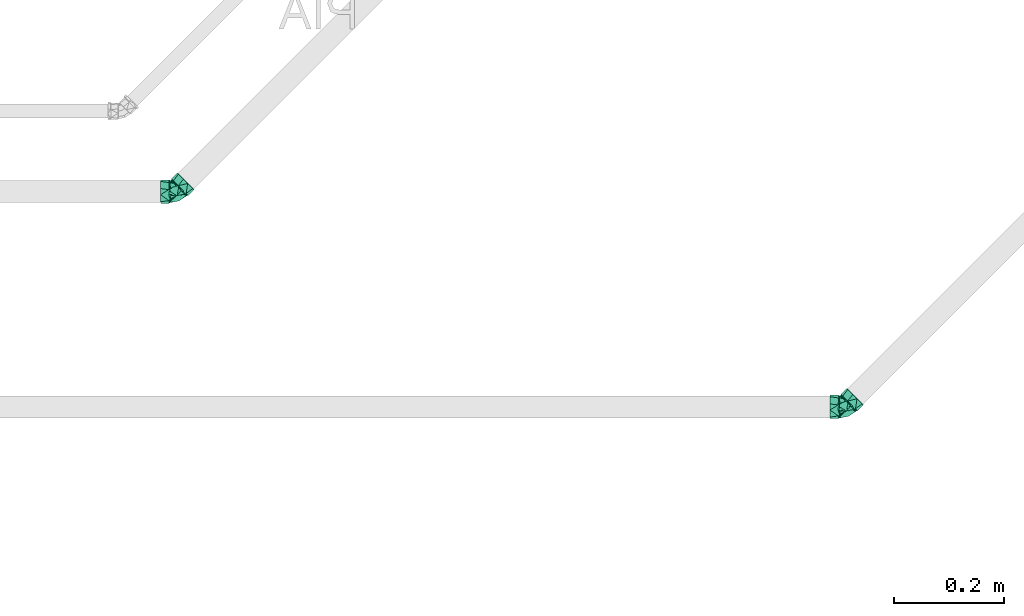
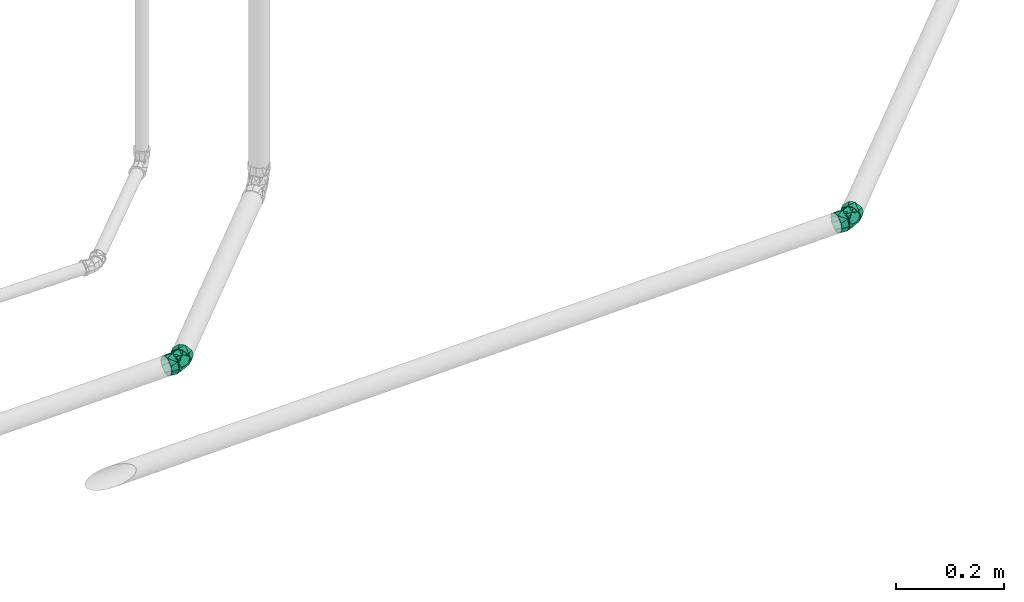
# One storey, part 344 of 589: 2 flow fittings.
"""IFC2X3 building model written with IfcOpenShell, lengths in millimetres."""

from ifc_helpers import new_model, entity, si_unit, converted_unit, derived_unit, direction, frame, origin, place, context, subcontext, project, spatial, faceted_brep, source, transform, mapped, material, type_object, type_shapes, element, save


model = new_model("IFC2X3")

# Units and contexts
model_context = context("Model", 3, precision=0.01, world=origin(), true_north=direction((6.123031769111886e-17, 1.0)))
body_context = subcontext(model_context, "Body", "Model", "MODEL_VIEW")
ifc_project = project(units=[si_unit("LENGTHUNIT", "METRE", prefix="MILLI"), si_unit("AREAUNIT", "SQUARE_METRE"), si_unit("VOLUMEUNIT", "CUBIC_METRE"), converted_unit("PLANEANGLEUNIT", "DEGREE", entity("IfcRatioMeasure", 0.017453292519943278), si_unit("PLANEANGLEUNIT", "RADIAN"), dimensions=[0, 0, 0, 0, 0, 0, 0]), si_unit("MASSUNIT", "GRAM", prefix="KILO"), derived_unit("MASSDENSITYUNIT", [(si_unit("MASSUNIT", "GRAM", prefix="KILO"), 1), (si_unit("LENGTHUNIT", "METRE"), -3)]), derived_unit("IONCONCENTRATIONUNIT", [(si_unit("MASSUNIT", "GRAM", prefix="KILO"), 1), (si_unit("LENGTHUNIT", "METRE"), -3)]), derived_unit("MOMENTOFINERTIAUNIT", [(si_unit("LENGTHUNIT", "METRE"), 4)]), si_unit("TIMEUNIT", "SECOND"), si_unit("FREQUENCYUNIT", "HERTZ"), si_unit("THERMODYNAMICTEMPERATUREUNIT", "DEGREE_CELSIUS"), derived_unit("THERMALTRANSMITTANCEUNIT", [(si_unit("MASSUNIT", "GRAM", prefix="KILO"), 1), (si_unit("THERMODYNAMICTEMPERATUREUNIT", "KELVIN"), -1), (si_unit("TIMEUNIT", "SECOND"), -3)]), derived_unit("THERMALCONDUCTANCEUNIT", [(si_unit("MASSUNIT", "GRAM", prefix="KILO"), 1), (si_unit("THERMODYNAMICTEMPERATUREUNIT", "KELVIN"), -1), (si_unit("TIMEUNIT", "SECOND"), -3), (si_unit("LENGTHUNIT", "METRE"), 1)]), derived_unit("VOLUMETRICFLOWRATEUNIT", [(si_unit("LENGTHUNIT", "METRE"), 3), (si_unit("TIMEUNIT", "SECOND"), -1)]), derived_unit("MASSFLOWRATEUNIT", [(si_unit("MASSUNIT", "GRAM", prefix="KILO"), 1), (si_unit("TIMEUNIT", "SECOND"), -1)]), derived_unit("ROTATIONALFREQUENCYUNIT", [(si_unit("TIMEUNIT", "SECOND"), -1)]), si_unit("ELECTRICCURRENTUNIT", "AMPERE"), si_unit("ELECTRICVOLTAGEUNIT", "VOLT"), si_unit("POWERUNIT", "WATT"), si_unit("FORCEUNIT", "NEWTON", prefix="KILO"), si_unit("ILLUMINANCEUNIT", "LUX"), si_unit("LUMINOUSFLUXUNIT", "LUMEN"), si_unit("LUMINOUSINTENSITYUNIT", "CANDELA"), derived_unit("USERDEFINED", [(si_unit("MASSUNIT", "GRAM", prefix="KILO"), -1), (si_unit("LENGTHUNIT", "METRE"), -2), (si_unit("TIMEUNIT", "SECOND"), 3), (si_unit("LUMINOUSFLUXUNIT", "LUMEN"), 1)]), derived_unit("USERDEFINED", [(si_unit("MASSUNIT", "GRAM", prefix="KILO"), 1), (si_unit("TIMEUNIT", "SECOND"), -3), (si_unit("LENGTHUNIT", "METRE"), 3), (si_unit("ELECTRICCURRENTUNIT", "AMPERE"), -2)]), derived_unit("SOUNDPOWERUNIT", [(si_unit("MASSUNIT", "GRAM", prefix="KILO"), 1), (si_unit("TIMEUNIT", "SECOND"), -3), (si_unit("LENGTHUNIT", "METRE"), 2)]), derived_unit("SOUNDPRESSUREUNIT", [(si_unit("MASSUNIT", "GRAM", prefix="KILO"), 1), (si_unit("LENGTHUNIT", "METRE"), -1), (si_unit("TIMEUNIT", "SECOND"), -2)]), derived_unit("LINEARVELOCITYUNIT", [(si_unit("LENGTHUNIT", "METRE"), 1), (si_unit("TIMEUNIT", "SECOND"), -1)]), si_unit("PRESSUREUNIT", "PASCAL"), derived_unit("USERDEFINED", [(si_unit("MASSUNIT", "GRAM", prefix="KILO"), 1), (si_unit("LENGTHUNIT", "METRE"), -2), (si_unit("TIMEUNIT", "SECOND"), -2)]), derived_unit("LINEARFORCEUNIT", [(si_unit("MASSUNIT", "GRAM", prefix="KILO"), 1), (si_unit("TIMEUNIT", "SECOND"), -2)]), derived_unit("PLANARFORCEUNIT", [(si_unit("MASSUNIT", "GRAM", prefix="KILO"), 1), (si_unit("LENGTHUNIT", "METRE"), -1), (si_unit("TIMEUNIT", "SECOND"), -2)]), derived_unit("SPECIFICHEATCAPACITYUNIT", [(si_unit("THERMODYNAMICTEMPERATUREUNIT", "KELVIN"), -1), (si_unit("LENGTHUNIT", "METRE"), 2), (si_unit("TIMEUNIT", "SECOND"), -2)]), derived_unit("HEATINGVALUEUNIT", [(si_unit("LENGTHUNIT", "METRE"), 2), (si_unit("TIMEUNIT", "SECOND"), -2)]), derived_unit("VAPORPERMEABILITYUNIT", [(si_unit("LENGTHUNIT", "METRE"), -1), (si_unit("TIMEUNIT", "SECOND"), 1)]), derived_unit("DYNAMICVISCOSITYUNIT", [(si_unit("MASSUNIT", "GRAM", prefix="KILO"), 1), (si_unit("TIMEUNIT", "SECOND"), -1), (si_unit("LENGTHUNIT", "METRE"), -1)]), derived_unit("THERMALEXPANSIONCOEFFICIENTUNIT", [(si_unit("THERMODYNAMICTEMPERATUREUNIT", "KELVIN"), -1)]), derived_unit("MODULUSOFELASTICITYUNIT", [(si_unit("MASSUNIT", "GRAM", prefix="KILO"), 1), (si_unit("LENGTHUNIT", "METRE"), -1), (si_unit("TIMEUNIT", "SECOND"), -2)]), derived_unit("ISOTHERMALMOISTURECAPACITYUNIT", [(si_unit("LENGTHUNIT", "METRE"), 3), (si_unit("MASSUNIT", "GRAM", prefix="KILO"), -1)]), derived_unit("MOISTUREDIFFUSIVITYUNIT", [(si_unit("TIMEUNIT", "SECOND"), -1), (si_unit("LENGTHUNIT", "METRE"), 2)])], contexts=[model_context])

# Site, building, storey
site_placement = place(None, origin())
site = spatial("IfcSite", under=ifc_project, at=site_placement, Name="Default", CompositionType="ELEMENT")
building_placement = place(site_placement, origin())
building = spatial("IfcBuilding", under=site, at=building_placement, CompositionType="ELEMENT")
storey_placement = place(building_placement, frame((0.0, 0.0, 100.0)))
storey = spatial("IfcBuildingStorey", under=building, at=storey_placement, Name="TÉRREO", CompositionType="ELEMENT", Elevation=100.0)

# Flow fittings
ifc_material = material(Name="PVC Série Normal")
pipe_fitting_type = type_object("IfcPipeFittingType", Name="PVC Esgoto_Joelho 45_90_Rodrigo MEP:a. Série Normal", PredefinedType="NOTDEFINED", material=ifc_material)
shared_shape = source(origin(), body_context, "Body", "Brep", [
    faceted_brep([(20.291797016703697, -7.993282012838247, 0.0), (18.397234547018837, -6.098470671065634, 10.0), (9.810603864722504, 2.489287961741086, 19.318516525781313), (2.4905765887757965, 9.810276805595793, 19.318516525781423), (-6.0960540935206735, 18.39803543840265, 10.0), (-7.990616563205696, 20.29284678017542, 0.0), (-6.0960540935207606, 18.398035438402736, -10.0), (2.49057658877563, 9.81027680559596, -19.31851652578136), (9.810603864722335, 2.4892879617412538, -19.318516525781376), (18.397234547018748, -6.098470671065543, -10.0), (-6.010587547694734, 22.272615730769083, 0.0), (-4.116025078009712, 20.377804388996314, 10.0), (4.470605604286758, 11.790045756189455, 19.318516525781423), (11.790632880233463, 4.46905691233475, 19.318516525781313), (20.3772635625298, -4.118701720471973, 10.0), (22.271826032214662, -6.013513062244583, 0.0), (20.37726356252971, -4.11870172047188, -10.0), (11.790632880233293, 4.469056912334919, -19.318516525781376), (4.4706056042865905, 11.790045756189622, -19.31851652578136), (-4.116025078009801, 20.3778043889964, -10.0)], [[[0, 1, 2, 3, 4, 5, 6, 7, 8, 9]], [[10, 11, 12, 13, 14, 15, 16, 17, 18, 19]], [[0, 15, 14, 1]], [[1, 14, 13, 2]], [[13, 12, 3, 2]], [[3, 12, 11, 4]], [[4, 11, 10, 5]], [[5, 10, 19, 6]], [[6, 19, 18, 7]], [[18, 17, 8, 7]], [[8, 17, 16, 9]], [[9, 16, 15, 0]]]),
    faceted_brep([(-11.497676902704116, -17.320508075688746, -10.0), (-11.497676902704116, -20.0, 0.0), (-11.497676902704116, -17.320508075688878, 10.0), (-11.497676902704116, -5.176380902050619, 19.318516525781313), (-11.497676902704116, 5.1763809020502, 19.318516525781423), (-11.497676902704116, 17.320508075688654, 10.0), (-11.497676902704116, 20.0, 0.0), (-11.497676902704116, 17.320508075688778, -10.0), (-11.497676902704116, 5.17638090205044, -19.31851652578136), (-11.497676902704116, -5.176380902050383, -19.318516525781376), (-8.697676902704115, 5.17638090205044, -19.31851652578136), (-8.697676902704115, 17.320508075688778, -10.0), (-8.697676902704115, 20.0, 0.0), (-8.697676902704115, 17.320508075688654, 10.0), (-8.697676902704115, 5.1763809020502, 19.318516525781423), (-8.697676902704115, -5.176380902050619, 19.318516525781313), (-8.697676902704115, -17.320508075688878, 10.0), (-8.697676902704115, -20.0, 0.0), (-8.697676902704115, -17.320508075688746, -10.0), (-8.697676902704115, -5.176380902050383, -19.318516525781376)], [[[0, 1, 2, 3, 4, 5, 6, 7, 8, 9]], [[10, 11, 12, 13, 14, 15, 16, 17, 18, 19]], [[1, 17, 16, 2]], [[2, 16, 15, 3]], [[15, 14, 4, 3]], [[4, 14, 13, 5]], [[5, 13, 12, 6]], [[6, 12, 11, 7]], [[7, 11, 10, 8]], [[10, 19, 9, 8]], [[9, 19, 18, 0]], [[0, 18, 17, 1]]]),
    faceted_brep([(-26.49767690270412, -5.512845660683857, -20.574220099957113), (-26.49767690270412, -5.176380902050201, -19.318516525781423), (-26.49767690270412, 5.176380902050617, -19.318516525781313), (-26.49767690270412, -18.44634110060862, -10.649999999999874), (-26.49767690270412, 5.512845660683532, -20.574220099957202), (-26.49767690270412, -17.320508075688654, -10.0), (-26.49767690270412, -20.0, 0.0), (-26.49767690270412, -21.3, 0.0), (-26.49767690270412, -17.32050807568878, 10.0), (-26.49767690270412, -18.446341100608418, 10.65000000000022), (-26.49767690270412, -5.176380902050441, 19.31851652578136), (-26.49767690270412, -5.512845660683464, 20.574220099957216), (-26.49767690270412, 5.176380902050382, 19.318516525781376), (-26.49767690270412, 5.512845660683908, 20.5742200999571), (-26.49767690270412, 17.320508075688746, 10.0), (-26.49767690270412, 18.446341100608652, 10.649999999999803), (-26.49767690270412, 21.3, 0.0), (-26.49767690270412, 20.0, 0.0), (-26.49767690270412, 18.44634110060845, -10.650000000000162), (-26.49767690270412, 17.320508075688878, -10.0), (-11.497676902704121, 17.320508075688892, -10.0), (-11.497676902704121, 20.0, 0.0), (-11.497676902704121, 5.17638090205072, -19.318516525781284), (-11.497676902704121, -5.176380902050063, -19.31851652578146), (-11.497676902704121, -17.320508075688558, -10.0), (-11.497676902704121, -20.0, 0.0), (-11.497676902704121, -17.320508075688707, 10.0), (-11.497676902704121, -5.176380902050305, 19.318516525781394), (-11.497676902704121, 5.176380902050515, 19.318516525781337), (-11.497676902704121, 17.320508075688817, 10.0), (-11.497676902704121, 21.3, 0.0), (-11.497676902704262, 16.315983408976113, 13.692285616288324), (-11.497676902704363, 3.696367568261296, 20.976817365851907), (-11.497676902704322, -16.31941754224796, 13.688192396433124), (-11.497676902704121, -21.3, 0.0), (-11.497676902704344, -6.311524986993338, 17.3325048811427), (-11.49767690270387, -16.319417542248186, -13.688192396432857), (-11.497676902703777, -3.7016293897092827, -20.975889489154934), (-11.497676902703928, 16.315983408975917, -13.692285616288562), (-11.497676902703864, 6.307177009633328, -17.334087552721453), (-9.497676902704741, -3.470767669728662, -19.69654212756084), (-9.49767690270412, 20.0, 0.0), (-9.497676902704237, 18.830849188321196, -3.2131907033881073), (-9.497676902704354, 17.66169837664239, -6.426381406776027), (-9.497676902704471, 16.4925475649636, -9.639572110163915), (-9.497676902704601, 15.323396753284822, -12.852762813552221), (-9.497676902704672, 5.9263145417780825, -16.27465247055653), (-9.497676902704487, -15.320172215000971, -12.856606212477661), (-9.49767690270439, -16.490129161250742, -9.642454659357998), (-9.497676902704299, -17.660086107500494, -6.428303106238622), (-9.49767690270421, -18.830043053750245, -3.214151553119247), (-9.497676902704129, -20.0, 0.0), (-9.497676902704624, 10.624855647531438, -14.563707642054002), (-9.497676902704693, 1.2277734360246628, -17.98559729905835), (-9.497676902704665, -6.433118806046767, -17.98655814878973), (-9.497676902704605, -9.395469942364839, -16.276574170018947), (-9.49767690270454, -12.357821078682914, -14.566590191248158), (-9.497676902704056, -18.830043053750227, 3.2141515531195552), (-9.497676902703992, -17.660086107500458, 6.428303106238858), (-9.497676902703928, -16.490129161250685, 9.64245465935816), (-9.497676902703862, -15.3201722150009, 12.856606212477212), (-9.497676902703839, -12.970687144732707, 13.711489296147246), (-9.497676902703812, -10.621202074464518, 14.566372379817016), (-9.497676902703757, -5.922231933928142, 16.27613854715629), (-9.497676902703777, 15.323396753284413, 12.852762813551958), (-9.497676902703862, 16.49254756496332, 9.63957211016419), (-9.49767690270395, 17.661698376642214, 6.426381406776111), (-9.497676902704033, 18.830849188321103, 3.213190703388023), (-9.497676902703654, 3.47570834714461, 19.695670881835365), (-9.49767690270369, 6.43763044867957, 17.984943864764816), (-9.497676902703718, 9.399552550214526, 16.274216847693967), (-9.497676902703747, 12.361474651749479, 14.563489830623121), (-9.497676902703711, -1.2232617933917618, 17.985904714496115), (-8.697676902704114, 17.057389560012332, 9.848048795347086), (-8.697676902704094, 6.840479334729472, 18.793824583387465), (-8.697676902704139, -9.848049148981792, 17.057385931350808), (-8.697676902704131, -3.420183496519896, 19.396932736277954), (-8.697676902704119, 0.0, 20.0), (-8.697676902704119, 19.396930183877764, 3.4201905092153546), (-8.697676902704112, 15.320918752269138, 12.855716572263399), (-8.697676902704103, 11.080699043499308, 15.82477057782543), (-8.697676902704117, 18.793860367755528, 6.840381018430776), (-8.697676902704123, -18.793848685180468, 6.840413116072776), (-8.697676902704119, 20.0, 0.0), (-8.697676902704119, -20.0, 0.0), (-8.697676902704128, -15.824789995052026, 11.080659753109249), (-8.697676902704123, -19.156924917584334, 4.781308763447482), (-8.697676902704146, -6.84036699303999, 18.793865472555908), (-8.69767690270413, -14.34026064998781, 13.200783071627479), (-8.697676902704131, -12.855731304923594, 15.320906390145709), (-8.697676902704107, 3.420239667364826, 19.396912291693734), (-8.697676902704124, -17.057361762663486, -9.848091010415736), (-8.697676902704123, -18.793848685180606, -6.840413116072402), (-8.697676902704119, 19.39693018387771, -3.4201905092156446), (-8.697676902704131, -3.420183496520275, -19.396932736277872), (-8.697676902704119, 0.0, -20.0), (-8.69767690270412, -19.396924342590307, -3.4202065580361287), (-8.697676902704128, -15.320874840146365, -12.85576890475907), (-8.697676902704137, -11.080620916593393, -15.824817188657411), (-8.697676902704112, 15.824828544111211, -11.080616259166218), (-8.697676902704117, 18.79386036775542, -6.84038101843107), (-8.697676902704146, -6.840366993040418, -18.79386547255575), (-8.697676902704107, 12.855796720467, -15.320851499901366), (-8.697676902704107, 3.420239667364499, -19.396912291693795), (-8.697676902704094, 6.840479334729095, -18.7938245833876), (-8.697676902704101, 9.848138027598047, -17.05733804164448), (18.39723454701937, -6.098470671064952, -10.0), (9.810603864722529, 2.489287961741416, -19.318516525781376), (2.490576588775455, 9.81027680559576, -19.31851652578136), (-6.0960540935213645, 18.39803543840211, -10.0), (-7.990616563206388, 20.292846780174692, 0.0), (-6.096054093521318, 18.39803543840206, 10.0), (2.4905765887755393, 9.810276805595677, 19.31851652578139), (9.810603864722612, 2.489287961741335, 19.318516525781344), (18.39723454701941, -6.098470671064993, 10.0), (20.29179701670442, -7.993282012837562, 0.0), (-2.9119619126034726, -18.849248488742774, 0.0), (15.386759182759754, -11.270374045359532, 0.0), (2.8666055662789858, -7.210896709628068, 17.605576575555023), (6.991099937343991, -16.87957604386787, 0.0), (-8.315023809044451, 20.076107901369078, 0.0), (2.8666055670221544, -7.2108967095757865, -17.605576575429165)], [[[0, 1, 2]], [[1, 0, 3]], [[2, 4, 0]], [[3, 5, 1]], [[3, 6, 5]], [[6, 3, 7]], [[8, 6, 7]], [[8, 7, 9]], [[9, 10, 8]], [[9, 11, 10]], [[10, 11, 12]], [[13, 12, 11]], [[13, 14, 12]], [[14, 13, 15]], [[16, 14, 15]], [[17, 14, 16]], [[18, 17, 16]], [[18, 19, 17]], [[19, 18, 4]], [[4, 2, 19]], [[20, 21, 17, 19]], [[22, 20, 19, 2]], [[2, 1, 23, 22]], [[24, 23, 1, 5]], [[25, 24, 5, 6]], [[26, 25, 6, 8]], [[27, 26, 8, 10]], [[10, 12, 28, 27]], [[29, 28, 12, 14]], [[21, 29, 14, 17]], [[16, 15, 30]], [[15, 31, 30]], [[31, 15, 13]], [[31, 13, 32]], [[33, 11, 9]], [[34, 9, 7]], [[11, 33, 35, 32]], [[33, 9, 34]], [[11, 32, 13]], [[7, 3, 34]], [[3, 36, 34]], [[36, 3, 0]], [[36, 0, 37]], [[38, 4, 18]], [[30, 18, 16]], [[4, 38, 39, 37]], [[38, 18, 30]], [[4, 37, 0]], [[28, 29, 21, 20, 22, 23, 24, 25, 26, 27]], [[39, 40, 37]], [[30, 41, 42, 43, 44, 45]], [[30, 45, 38]], [[38, 46, 39]], [[36, 47, 48, 49, 50, 51]], [[38, 45, 52, 46]], [[36, 37, 47]], [[34, 36, 51]], [[39, 46, 53, 40]], [[37, 40, 54, 55, 56, 47]], [[33, 51, 57, 58, 59, 60]], [[33, 34, 51]], [[60, 35, 33]], [[35, 60, 61, 62, 63]], [[63, 32, 35]], [[30, 64, 65, 66, 67, 41]], [[31, 68, 69, 70, 71, 64]], [[31, 64, 30]], [[32, 63, 72, 68]], [[68, 31, 32]], [[64, 73, 65]], [[74, 70, 69, 68]], [[62, 75, 63]], [[76, 77, 72]], [[78, 67, 66]], [[79, 71, 80]], [[65, 81, 66]], [[64, 79, 73]], [[82, 59, 58]], [[83, 41, 67]], [[84, 57, 51]], [[60, 59, 85]], [[83, 67, 78]], [[86, 82, 58]], [[81, 65, 73]], [[63, 87, 76]], [[63, 76, 72]], [[63, 75, 87]], [[82, 85, 59]], [[68, 72, 77]], [[66, 81, 78]], [[61, 88, 89]], [[89, 62, 61]], [[68, 77, 90, 74]], [[84, 86, 57]], [[86, 58, 57]], [[89, 75, 62]], [[61, 60, 88]], [[60, 85, 88]], [[74, 80, 70]], [[71, 79, 64]], [[71, 70, 80]], [[49, 91, 92]], [[93, 43, 42]], [[54, 40, 94]], [[40, 53, 95]], [[51, 96, 84]], [[97, 56, 98]], [[48, 97, 91]], [[91, 49, 48]], [[99, 44, 100]], [[101, 55, 54]], [[96, 51, 50]], [[83, 42, 41]], [[45, 99, 102]], [[49, 92, 50]], [[42, 83, 93]], [[48, 47, 97]], [[53, 103, 95]], [[104, 103, 46]], [[52, 105, 46]], [[44, 99, 45]], [[46, 103, 53]], [[50, 92, 96]], [[105, 52, 102]], [[44, 43, 100]], [[40, 95, 94]], [[100, 43, 93]], [[102, 52, 45]], [[105, 104, 46]], [[101, 98, 55]], [[54, 94, 101]], [[56, 97, 47]], [[56, 55, 98]], [[106, 107, 108, 109, 110, 111, 112, 113, 114, 115]], [[116, 89, 88, 85, 82]], [[117, 118, 119]], [[118, 89, 119]], [[118, 77, 76, 87]], [[116, 82, 86, 84]], [[118, 74, 90, 77]], [[111, 81, 73, 79]], [[112, 79, 80, 74]], [[118, 87, 75, 89]], [[89, 116, 119]], [[74, 118, 112]], [[118, 114, 113]], [[118, 117, 114]], [[120, 83, 78, 81]], [[81, 110, 120]], [[110, 81, 111]], [[117, 115, 114]], [[112, 111, 79]], [[112, 118, 113]], [[104, 108, 121]], [[116, 92, 91, 97]], [[109, 102, 99, 100]], [[106, 121, 107]], [[97, 121, 119]], [[108, 104, 105, 102]], [[116, 84, 96, 92]], [[97, 119, 116]], [[121, 97, 98, 101]], [[121, 95, 103, 104]], [[110, 100, 120]], [[109, 100, 110]], [[108, 102, 109]], [[121, 101, 94, 95]], [[108, 107, 121]], [[119, 121, 117]], [[106, 117, 121]], [[106, 115, 117]], [[120, 100, 93, 83]]]),
    faceted_brep([(-4.116025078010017, 20.37780438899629, -10.0), (-6.010587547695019, 22.272615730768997, 0.0), (-4.116025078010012, 20.37780438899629, 10.0), (4.470605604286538, 11.790045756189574, 19.318516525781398), (11.790632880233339, 4.469056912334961, 19.318516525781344), (20.37726356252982, -4.11870172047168, 10.0), (22.27182603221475, -6.013513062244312, 0.0), (20.377263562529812, -4.118701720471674, -10.0), (11.79063288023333, 4.469056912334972, -19.318516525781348), (4.470605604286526, 11.790045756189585, -19.318516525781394), (23.191004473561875, -6.932812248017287, 0.0), (20.85751959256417, -7.4276337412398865, 0.0), (20.03085942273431, -6.600864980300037, -3.213190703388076), (19.204199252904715, -5.774096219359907, -6.426381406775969), (18.377539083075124, -4.947327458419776, -9.639572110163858), (17.55087891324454, -4.120558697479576, -12.85276281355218), (3.6679902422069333, 12.592766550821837, -17.332504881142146), (10.744174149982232, 5.51565310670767, -20.976817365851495), (4.262270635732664, 9.169795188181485, -19.696542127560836), (19.667004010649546, -3.408348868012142, -13.69228561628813), (-4.115973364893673, 17.54913976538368, -12.856606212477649), (-3.408193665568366, 19.669879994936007, -13.688192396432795), (2.167709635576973, 11.264631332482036, -17.986558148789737), (0.07314863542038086, 13.359467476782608, -16.27657417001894), (-2.021412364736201, 15.45430362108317, -14.566590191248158), (10.906574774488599, 2.5246182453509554, -16.274652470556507), (-4.943203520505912, 18.37647858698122, -9.642454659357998), (-5.7704336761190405, 19.20381740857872, -6.428303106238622), (-6.597663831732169, 20.031156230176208, -3.2141515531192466), (-7.424893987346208, 20.858495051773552, 0.0), (-6.92976598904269, 23.191914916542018, 0.0), (14.22872684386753, -0.7979702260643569, -14.563707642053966), (7.58442270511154, 5.8472067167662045, -17.98559729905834), (-3.408193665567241, 19.669879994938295, 13.688192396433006), (-6.597663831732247, 20.031156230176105, 3.2141515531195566), (-5.770433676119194, 19.20381740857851, 6.428303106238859), (-4.943203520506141, 18.376478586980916, 9.64245465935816), (-4.115973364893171, 17.549139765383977, 12.856606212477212), (12.59017395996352, 3.6694108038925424, 17.334087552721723), (5.513343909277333, 10.747170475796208, 20.975889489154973), (9.173848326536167, 4.257572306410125, 19.695670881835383), (17.55087891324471, -4.120558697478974, 12.852762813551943), (19.66700401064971, -3.4083488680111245, 13.692285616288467), (11.268105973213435, 2.1630395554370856, 17.984943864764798), (13.362363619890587, 0.06850680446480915, 16.274216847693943), (15.456621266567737, -2.0260259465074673, 14.563489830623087), (2.5289374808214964, 10.903356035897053, 16.276138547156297), (18.377539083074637, -4.94732745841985, 9.639572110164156), (19.20419925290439, -5.774096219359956, 6.426381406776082), (20.030859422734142, -6.600864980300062, 3.213190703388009), (-2.4547456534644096, 15.887693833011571, 13.711489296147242), (-0.793517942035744, 14.22624790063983, 14.566372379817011), (5.851392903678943, 7.580464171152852, 17.985904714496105), (14.840003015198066, 22.63388298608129, -20.574220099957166), (15.077903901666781, 22.395950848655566, -19.318516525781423), (22.39793117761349, 15.074962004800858, -19.318516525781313), (5.69524133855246, 31.779845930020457, -10.649999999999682), (22.635832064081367, 14.837029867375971, -20.574220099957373), (6.491273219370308, 30.983709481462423, -10.0), (4.596710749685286, 32.8785208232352, 0.0), (3.677532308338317, 33.797820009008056, 0.0), (6.491273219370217, 30.983709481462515, 10.0), (5.6952413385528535, 31.77984593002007, 10.650000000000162), (15.077903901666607, 22.39595084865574, 19.31851652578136), (14.840003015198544, 22.633882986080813, 20.5742200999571), (22.397931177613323, 15.074962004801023, 19.318516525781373), (22.635832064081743, 14.837029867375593, 20.57422009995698), (30.984561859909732, 6.4872033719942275, 10.0), (31.78059374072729, 5.691066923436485, 10.649999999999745), (33.798302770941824, 3.6730928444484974, 0.0), (32.87912432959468, 4.592392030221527, 0.0), (31.780593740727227, 5.691066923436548, -10.650000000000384), (30.984561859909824, 6.487203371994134, -10.0), (18.211174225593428, -5.912385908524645, 9.848091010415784), (10.98714243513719, 1.3125948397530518, 18.793865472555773), (-0.812637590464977, 13.11392489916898, 17.05733804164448), (3.7322744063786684, 8.568415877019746, 19.396912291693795), (6.15059022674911, 6.149782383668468, 20.0), (19.865386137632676, -7.5668151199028, 3.420206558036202), (16.983373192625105, -4.684423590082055, 12.8557689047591), (13.98525781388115, -1.6859143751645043, 15.824817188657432), (19.438975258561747, -7.1403482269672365, 6.84041311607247), (-7.13780306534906, 19.43992125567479, 6.840381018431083), (20.2917970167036, -7.993282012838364, 0.0), (-7.9906165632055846, 20.29284678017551, 0.0), (-5.03851841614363, 17.34036084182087, 11.080616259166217), (-7.3945144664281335, 19.696666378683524, 4.781309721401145), (1.3139585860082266, 10.987049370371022, 18.79382458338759), (-3.98887609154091, 16.29058063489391, 13.20073387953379), (-2.939233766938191, 15.240800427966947, 15.320851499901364), (8.568866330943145, 3.7311886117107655, 19.39693273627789), (-5.91001342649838, 18.21197033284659, -9.848048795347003), (-7.137803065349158, 19.439921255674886, -6.840381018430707), (19.865386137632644, -7.566815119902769, -3.420206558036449), (3.7322744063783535, 8.568415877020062, -19.396912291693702), (6.150590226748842, 6.1497823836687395, -20.0), (-7.56420981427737, 19.866384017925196, -3.4201905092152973), (-4.682223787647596, 16.984019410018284, -12.85571657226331), (-1.6841326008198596, 13.985534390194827, -15.824770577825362), (17.33967161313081, -5.040768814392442, -11.080659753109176), (19.43897525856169, -7.1403482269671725, -6.840413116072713), (1.3139585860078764, 10.987049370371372, -18.793824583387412), (15.240367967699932, -2.941189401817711, -15.32090639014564), (8.568866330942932, 3.731188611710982, -19.396932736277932), (10.987142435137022, 1.312594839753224, -18.79386547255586), (13.113755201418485, -0.814297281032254, -17.05738593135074), (-8.69767690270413, 5.176380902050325, 19.31851652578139), (-8.697676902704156, 17.320508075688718, 10.0), (-8.697676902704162, 20.0, 0.0), (-8.697676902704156, 17.320508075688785, -10.0), (-8.69767690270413, 5.176380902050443, -19.31851652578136), (-8.697676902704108, -5.176380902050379, -19.318516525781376), (-8.697676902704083, -17.320508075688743, -10.0), (-8.697676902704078, -20.0, 0.0), (-8.697676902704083, -17.32050807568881, 10.0), (-8.697676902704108, -5.176380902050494, 19.318516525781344), (6.991099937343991, -16.87957604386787, 0.0), (3.071408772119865, -7.126073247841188, 17.60557611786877), (-2.9119619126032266, -18.849248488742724, 0.0), (-8.315023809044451, 20.07610790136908, 0.0), (15.386759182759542, -11.270374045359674, 0.0), (3.0714087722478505, -7.126073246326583, -17.60557611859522)], [[[0, 1, 2, 3, 4, 5, 6, 7, 8, 9]], [[10, 11, 12, 13, 14, 15]], [[16, 17, 18]], [[19, 10, 15]], [[16, 20, 21]], [[16, 18, 22, 23, 24, 20]], [[19, 25, 17]], [[21, 20, 26, 27, 28, 29]], [[21, 29, 30]], [[19, 15, 31, 25]], [[17, 25, 32, 18]], [[33, 29, 34, 35, 36, 37]], [[38, 39, 40]], [[33, 30, 29]], [[38, 41, 42]], [[38, 40, 43, 44, 45, 41]], [[33, 46, 39]], [[10, 41, 47, 48, 49, 11]], [[42, 41, 10]], [[33, 37, 50, 51, 46]], [[39, 46, 52, 40]], [[53, 54, 55]], [[54, 53, 56]], [[55, 57, 53]], [[56, 58, 54]], [[56, 59, 58]], [[59, 56, 60]], [[61, 59, 60]], [[61, 60, 62]], [[62, 63, 61]], [[62, 64, 63]], [[63, 64, 65]], [[66, 65, 64]], [[66, 67, 65]], [[67, 66, 68]], [[69, 67, 68]], [[70, 67, 69]], [[71, 70, 69]], [[71, 72, 70]], [[72, 71, 57]], [[57, 55, 72]], [[69, 68, 10]], [[68, 42, 10]], [[42, 68, 66]], [[66, 39, 38, 42]], [[33, 64, 62]], [[30, 62, 60]], [[64, 33, 39]], [[33, 62, 30]], [[64, 39, 66]], [[60, 56, 30]], [[56, 21, 30]], [[21, 56, 53]], [[53, 17, 16, 21]], [[19, 57, 71]], [[10, 71, 69]], [[57, 19, 17]], [[19, 71, 10]], [[57, 17, 53]], [[7, 6, 70, 72]], [[8, 7, 72, 55]], [[55, 54, 9, 8]], [[0, 9, 54, 58]], [[1, 0, 58, 59]], [[2, 1, 59, 61]], [[3, 2, 61, 63]], [[63, 65, 4, 3]], [[5, 4, 65, 67]], [[6, 5, 67, 70]], [[41, 73, 47]], [[74, 44, 43, 40]], [[51, 75, 46]], [[76, 77, 52]], [[78, 49, 48]], [[79, 45, 80]], [[47, 81, 48]], [[41, 79, 73]], [[82, 36, 35]], [[83, 11, 49]], [[84, 34, 29]], [[37, 36, 85]], [[83, 49, 78]], [[86, 82, 35]], [[81, 47, 73]], [[46, 87, 76]], [[46, 76, 52]], [[46, 75, 87]], [[82, 85, 36]], [[40, 52, 77]], [[48, 81, 78]], [[50, 88, 89]], [[89, 51, 50]], [[40, 77, 90, 74]], [[84, 86, 34]], [[86, 35, 34]], [[89, 75, 51]], [[50, 37, 88]], [[37, 85, 88]], [[74, 80, 44]], [[45, 79, 41]], [[45, 44, 80]], [[27, 91, 92]], [[93, 13, 12]], [[22, 18, 94]], [[18, 32, 95]], [[29, 96, 84]], [[97, 24, 98]], [[26, 97, 91]], [[91, 27, 26]], [[99, 14, 100]], [[101, 23, 22]], [[96, 29, 28]], [[83, 12, 11]], [[15, 99, 102]], [[27, 92, 28]], [[12, 83, 93]], [[26, 20, 97]], [[32, 103, 95]], [[104, 103, 25]], [[31, 105, 25]], [[14, 99, 15]], [[25, 103, 32]], [[28, 92, 96]], [[105, 31, 102]], [[14, 13, 100]], [[18, 95, 94]], [[100, 13, 93]], [[102, 31, 15]], [[105, 104, 25]], [[101, 98, 23]], [[22, 94, 101]], [[24, 97, 20]], [[24, 23, 98]], [[106, 107, 108, 109, 110, 111, 112, 113, 114, 115]], [[116, 117, 118]], [[115, 117, 106]], [[118, 117, 114]], [[107, 106, 89]], [[82, 119, 108]], [[108, 107, 82]], [[114, 113, 118]], [[117, 74, 90, 77]], [[79, 117, 116]], [[117, 79, 80, 74]], [[79, 116, 120]], [[117, 77, 76, 87]], [[119, 82, 86, 84]], [[120, 81, 73, 79]], [[107, 89, 88, 85, 82]], [[106, 87, 75, 89]], [[114, 117, 115]], [[117, 87, 106]], [[120, 83, 78, 81]], [[121, 110, 101]], [[109, 108, 92]], [[118, 113, 112]], [[109, 97, 110]], [[121, 118, 112]], [[121, 112, 111]], [[111, 110, 121]], [[92, 108, 119]], [[109, 92, 91, 97]], [[110, 97, 98, 101]], [[121, 104, 105, 102]], [[118, 121, 116]], [[121, 101, 94, 95]], [[102, 116, 121]], [[120, 100, 93, 83]], [[116, 102, 120]], [[120, 102, 99, 100]], [[121, 95, 103, 104]], [[119, 84, 96, 92]]]),
])
type_shapes(pipe_fitting_type, [shared_shape])
for number, where, z_axis, x_axis, name in (
    (1, (-6352.058810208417, -4713.922185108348, -203.38711726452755), (-0.019995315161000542, -0.008283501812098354, 0.9997657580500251), (0.999800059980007, 0.0, 0.01999600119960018), "PVC Esgoto_Joelho 45_90_Rodrigo MEP:a. Série Normal"),
    (2, (-5138.383824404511, -5104.329409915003, -67.09333000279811), (-0.01999531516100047, -0.008283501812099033, 0.9997657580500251), (0.999800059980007, 0.0, 0.019996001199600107), "PVC Esgoto_Joelho 45_90_Rodrigo MEP:a. Série Normal"),
):
    element("IfcFlowFitting", number, at=place(storey_placement, frame(where, z_axis=z_axis, x_axis=x_axis)), inside=storey, type_object=pipe_fitting_type, material=ifc_material, Name=name, ObjectType="PVC Esgoto_Joelho 45_90_Rodrigo MEP:a. Série Normal", context=body_context, shape_type="MappedRepresentation", body=[
        mapped(shared_shape, transform((0.0, 0.0, 0.0), scale=1.0)),
    ])

save(model, "model.ifc")
